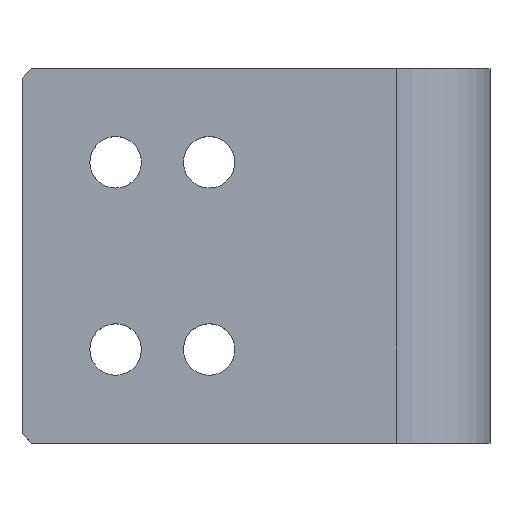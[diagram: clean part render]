
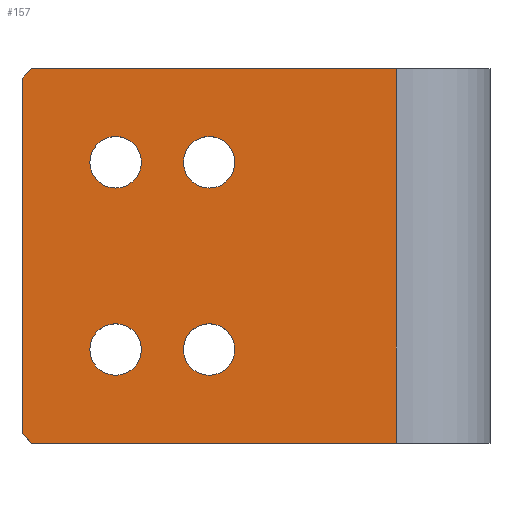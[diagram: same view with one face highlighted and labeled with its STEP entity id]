
A CAD part, top view. The second image highlights one B-rep face of the part: STEP entity #157.
In plain terms, the highlighted planar face has unit normal (0, 0, 1).
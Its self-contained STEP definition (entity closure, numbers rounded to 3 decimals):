
#4 = AXIS2_PLACEMENT_3D ( 'NONE', #602, #197, #439 ) ;
#12 = CARTESIAN_POINT ( 'NONE',  ( 0., 39., 1. ) ) ;
#17 = ORIENTED_EDGE ( 'NONE', *, *, #218, .F. ) ;
#24 = DIRECTION ( 'NONE',  ( 0., 0., 1. ) ) ;
#26 = VERTEX_POINT ( 'NONE', #430 ) ;
#38 = EDGE_LOOP ( 'NONE', ( #528, #277 ) ) ;
#43 = CARTESIAN_POINT ( 'NONE',  ( 1., 0., 1. ) ) ;
#53 = DIRECTION ( 'NONE',  ( 1., 0., 0. ) ) ;
#58 = VERTEX_POINT ( 'NONE', #376 ) ;
#64 = DIRECTION ( 'NONE',  ( 1., 0., 0. ) ) ;
#67 = VECTOR ( 'NONE', #158, 1000. ) ;
#77 = ORIENTED_EDGE ( 'NONE', *, *, #411, .F. ) ;
#79 = CARTESIAN_POINT ( 'NONE',  ( 40., 0., 1. ) ) ;
#80 = EDGE_CURVE ( 'NONE', #508, #245, #134, .T. ) ;
#86 = FACE_BOUND ( 'NONE', #544, .T. ) ;
#87 = EDGE_CURVE ( 'NONE', #249, #58, #324, .T. ) ;
#95 = CARTESIAN_POINT ( 'NONE',  ( 7.25, 10., 1. ) ) ;
#97 = CARTESIAN_POINT ( 'NONE',  ( 10., 30., 1. ) ) ;
#99 = CIRCLE ( 'NONE', #432, 2.75 ) ;
#107 = FACE_BOUND ( 'NONE', #711, .T. ) ;
#108 = ORIENTED_EDGE ( 'NONE', *, *, #502, .T. ) ;
#110 = AXIS2_PLACEMENT_3D ( 'NONE', #555, #653, #261 ) ;
#117 = AXIS2_PLACEMENT_3D ( 'NONE', #97, #347, #400 ) ;
#123 = DIRECTION ( 'NONE',  ( 0., 0., 1. ) ) ;
#133 = VERTEX_POINT ( 'NONE', #95 ) ;
#134 = LINE ( 'NONE', #661, #621 ) ;
#139 = CIRCLE ( 'NONE', #485, 2.75 ) ;
#141 = DIRECTION ( 'NONE',  ( 1., 0., 0. ) ) ;
#146 = CARTESIAN_POINT ( 'NONE',  ( 12.75, 30., 1. ) ) ;
#153 = AXIS2_PLACEMENT_3D ( 'NONE', #319, #483, #728 ) ;
#157 = ADVANCED_FACE ( 'NONE', ( #708, #107, #659, #86, #696 ), #666, .F. ) ;
#158 = DIRECTION ( 'NONE',  ( 0., 1., 0. ) ) ;
#172 = VECTOR ( 'NONE', #471, 1000. ) ;
#186 = CARTESIAN_POINT ( 'NONE',  ( 40., 40., 1. ) ) ;
#187 = ORIENTED_EDGE ( 'NONE', *, *, #188, .F. ) ;
#188 = EDGE_CURVE ( 'NONE', #255, #584, #496, .T. ) ;
#189 = VERTEX_POINT ( 'NONE', #344 ) ;
#196 = DIRECTION ( 'NONE',  ( 0., 0., 1. ) ) ;
#197 = DIRECTION ( 'NONE',  ( 0., 0., 1. ) ) ;
#205 = DIRECTION ( 'NONE',  ( 1., 0., 0. ) ) ;
#218 = EDGE_CURVE ( 'NONE', #26, #133, #697, .T. ) ;
#226 = EDGE_CURVE ( 'NONE', #255, #245, #559, .T. ) ;
#230 = DIRECTION ( 'NONE',  ( 0., 0., 1. ) ) ;
#237 = CARTESIAN_POINT ( 'NONE',  ( 40., 40., 1. ) ) ;
#244 = CARTESIAN_POINT ( 'NONE',  ( 10., 30., 1. ) ) ;
#245 = VERTEX_POINT ( 'NONE', #237 ) ;
#249 = VERTEX_POINT ( 'NONE', #146 ) ;
#250 = ORIENTED_EDGE ( 'NONE', *, *, #421, .F. ) ;
#255 = VERTEX_POINT ( 'NONE', #79 ) ;
#261 = DIRECTION ( 'NONE',  ( 1., 0., 0. ) ) ;
#263 = EDGE_CURVE ( 'NONE', #189, #532, #267, .T. ) ;
#265 = DIRECTION ( 'NONE',  ( 0.707, -0.707, 0. ) ) ;
#267 = CIRCLE ( 'NONE', #110, 2.75 ) ;
#277 = ORIENTED_EDGE ( 'NONE', *, *, #361, .F. ) ;
#287 = CARTESIAN_POINT ( 'NONE',  ( 0., 39., 1. ) ) ;
#294 = CARTESIAN_POINT ( 'NONE',  ( 1., 40., 1. ) ) ;
#297 = AXIS2_PLACEMENT_3D ( 'NONE', #414, #24, #351 ) ;
#301 = LINE ( 'NONE', #422, #67 ) ;
#303 = EDGE_CURVE ( 'NONE', #490, #597, #317, .T. ) ;
#305 = VERTEX_POINT ( 'NONE', #12 ) ;
#309 = CARTESIAN_POINT ( 'NONE',  ( 1., 0., 1. ) ) ;
#312 = EDGE_CURVE ( 'NONE', #489, #584, #598, .T. ) ;
#317 = CIRCLE ( 'NONE', #4, 2.75 ) ;
#319 = CARTESIAN_POINT ( 'NONE',  ( 0., 0., 1. ) ) ;
#324 = CIRCLE ( 'NONE', #117, 2.75 ) ;
#344 = CARTESIAN_POINT ( 'NONE',  ( 17.25, 30., 1. ) ) ;
#347 = DIRECTION ( 'NONE',  ( 0., 0., 1. ) ) ;
#351 = DIRECTION ( 'NONE',  ( 1., 0., 0. ) ) ;
#361 = EDGE_CURVE ( 'NONE', #597, #490, #99, .T. ) ;
#363 = VECTOR ( 'NONE', #404, 1000. ) ;
#366 = EDGE_CURVE ( 'NONE', #133, #26, #385, .T. ) ;
#376 = CARTESIAN_POINT ( 'NONE',  ( 7.25, 30., 1. ) ) ;
#385 = CIRCLE ( 'NONE', #540, 2.75 ) ;
#393 = EDGE_LOOP ( 'NONE', ( #77, #551, #187, #475, #572, #108 ) ) ;
#394 = EDGE_LOOP ( 'NONE', ( #17, #622 ) ) ;
#395 = CARTESIAN_POINT ( 'NONE',  ( 22.75, 30., 1. ) ) ;
#400 = DIRECTION ( 'NONE',  ( 1., 0., 0. ) ) ;
#404 = DIRECTION ( 'NONE',  ( -1., 0., 0. ) ) ;
#411 = EDGE_CURVE ( 'NONE', #489, #305, #301, .T. ) ;
#414 = CARTESIAN_POINT ( 'NONE',  ( 10., 10., 1. ) ) ;
#421 = EDGE_CURVE ( 'NONE', #58, #249, #531, .T. ) ;
#422 = CARTESIAN_POINT ( 'NONE',  ( 0., 0., 1. ) ) ;
#430 = CARTESIAN_POINT ( 'NONE',  ( 12.75, 10., 1. ) ) ;
#432 = AXIS2_PLACEMENT_3D ( 'NONE', #516, #123, #64 ) ;
#439 = DIRECTION ( 'NONE',  ( 1., 0., 0. ) ) ;
#441 = EDGE_CURVE ( 'NONE', #532, #189, #139, .T. ) ;
#457 = AXIS2_PLACEMENT_3D ( 'NONE', #244, #196, #141 ) ;
#471 = DIRECTION ( 'NONE',  ( 0., 1., 0. ) ) ;
#475 = ORIENTED_EDGE ( 'NONE', *, *, #226, .T. ) ;
#483 = DIRECTION ( 'NONE',  ( 0., 0., -1. ) ) ;
#484 = CARTESIAN_POINT ( 'NONE',  ( 0., 1., 1. ) ) ;
#485 = AXIS2_PLACEMENT_3D ( 'NONE', #585, #230, #640 ) ;
#489 = VERTEX_POINT ( 'NONE', #484 ) ;
#490 = VERTEX_POINT ( 'NONE', #695 ) ;
#496 = LINE ( 'NONE', #519, #363 ) ;
#502 = EDGE_CURVE ( 'NONE', #508, #305, #663, .T. ) ;
#508 = VERTEX_POINT ( 'NONE', #294 ) ;
#516 = CARTESIAN_POINT ( 'NONE',  ( 20., 10., 1. ) ) ;
#519 = CARTESIAN_POINT ( 'NONE',  ( 50., 0., 1. ) ) ;
#528 = ORIENTED_EDGE ( 'NONE', *, *, #303, .F. ) ;
#531 = CIRCLE ( 'NONE', #457, 2.75 ) ;
#532 = VERTEX_POINT ( 'NONE', #395 ) ;
#540 = AXIS2_PLACEMENT_3D ( 'NONE', #625, #564, #53 ) ;
#543 = VECTOR ( 'NONE', #703, 1000. ) ;
#544 = EDGE_LOOP ( 'NONE', ( #548, #600 ) ) ;
#548 = ORIENTED_EDGE ( 'NONE', *, *, #441, .F. ) ;
#551 = ORIENTED_EDGE ( 'NONE', *, *, #312, .T. ) ;
#555 = CARTESIAN_POINT ( 'NONE',  ( 20., 30., 1. ) ) ;
#559 = LINE ( 'NONE', #186, #172 ) ;
#564 = DIRECTION ( 'NONE',  ( 0., 0., 1. ) ) ;
#572 = ORIENTED_EDGE ( 'NONE', *, *, #80, .F. ) ;
#584 = VERTEX_POINT ( 'NONE', #43 ) ;
#585 = CARTESIAN_POINT ( 'NONE',  ( 20., 30., 1. ) ) ;
#597 = VERTEX_POINT ( 'NONE', #632 ) ;
#598 = LINE ( 'NONE', #309, #672 ) ;
#600 = ORIENTED_EDGE ( 'NONE', *, *, #263, .F. ) ;
#602 = CARTESIAN_POINT ( 'NONE',  ( 20., 10., 1. ) ) ;
#621 = VECTOR ( 'NONE', #205, 1000. ) ;
#622 = ORIENTED_EDGE ( 'NONE', *, *, #366, .F. ) ;
#625 = CARTESIAN_POINT ( 'NONE',  ( 10., 10., 1. ) ) ;
#632 = CARTESIAN_POINT ( 'NONE',  ( 17.25, 10., 1. ) ) ;
#640 = DIRECTION ( 'NONE',  ( 1., 0., 0. ) ) ;
#653 = DIRECTION ( 'NONE',  ( 0., 0., 1. ) ) ;
#659 = FACE_BOUND ( 'NONE', #38, .T. ) ;
#661 = CARTESIAN_POINT ( 'NONE',  ( 0., 40., 1. ) ) ;
#663 = LINE ( 'NONE', #287, #543 ) ;
#666 = PLANE ( 'NONE',  #153 ) ;
#672 = VECTOR ( 'NONE', #265, 1000. ) ;
#689 = ORIENTED_EDGE ( 'NONE', *, *, #87, .F. ) ;
#695 = CARTESIAN_POINT ( 'NONE',  ( 22.75, 10., 1. ) ) ;
#696 = FACE_OUTER_BOUND ( 'NONE', #393, .T. ) ;
#697 = CIRCLE ( 'NONE', #297, 2.75 ) ;
#703 = DIRECTION ( 'NONE',  ( -0.707, -0.707, 0. ) ) ;
#708 = FACE_BOUND ( 'NONE', #394, .T. ) ;
#711 = EDGE_LOOP ( 'NONE', ( #689, #250 ) ) ;
#728 = DIRECTION ( 'NONE',  ( -1., 0., 0. ) ) ;
